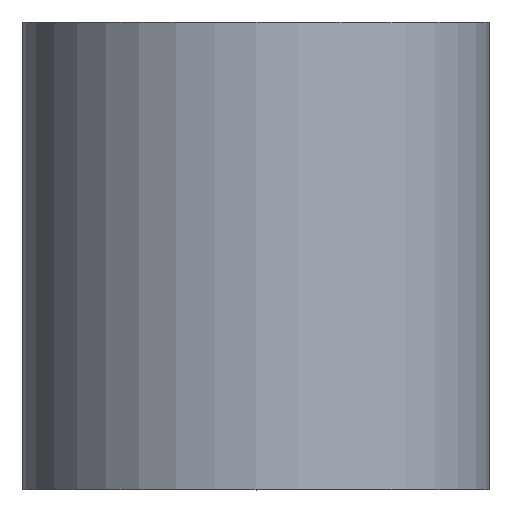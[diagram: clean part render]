
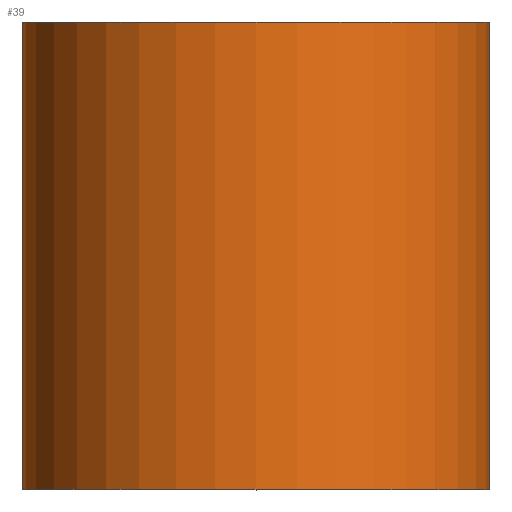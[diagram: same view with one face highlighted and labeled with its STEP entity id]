
A CAD part, top view. The second image highlights one B-rep face of the part: STEP entity #39.
In plain terms, the highlighted cylindrical face has radius 5 mm (diameter 10 mm), a partial arc.
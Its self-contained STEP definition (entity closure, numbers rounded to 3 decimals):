
#12 = EDGE_CURVE ( 'NONE', #195, #216, #118, .T. ) ;
#14 = DIRECTION ( 'NONE',  ( -1., 0., 0. ) ) ;
#20 = CIRCLE ( 'NONE', #33, 5. ) ;
#26 = EDGE_LOOP ( 'NONE', ( #241, #264, #65, #82 ) ) ;
#33 = AXIS2_PLACEMENT_3D ( 'NONE', #86, #230, #274 ) ;
#39 = ADVANCED_FACE ( 'NONE', ( #49 ), #191, .T. ) ;
#40 = CARTESIAN_POINT ( 'NONE',  ( -5., 0., 0. ) ) ;
#49 = FACE_OUTER_BOUND ( 'NONE', #26, .T. ) ;
#55 = DIRECTION ( 'NONE',  ( 0., 1., 0. ) ) ;
#65 = ORIENTED_EDGE ( 'NONE', *, *, #12, .F. ) ;
#72 = VECTOR ( 'NONE', #202, 1000. ) ;
#80 = EDGE_CURVE ( 'NONE', #201, #195, #243, .T. ) ;
#82 = ORIENTED_EDGE ( 'NONE', *, *, #80, .F. ) ;
#86 = CARTESIAN_POINT ( 'NONE',  ( 0., 0., 0. ) ) ;
#99 = CARTESIAN_POINT ( 'NONE',  ( 0., 10., 0. ) ) ;
#102 = DIRECTION ( 'NONE',  ( -1., 0., 0. ) ) ;
#104 = LINE ( 'NONE', #135, #228 ) ;
#117 = AXIS2_PLACEMENT_3D ( 'NONE', #289, #55, #102 ) ;
#118 = CIRCLE ( 'NONE', #151, 5. ) ;
#126 = DIRECTION ( 'NONE',  ( 0., 1., 0. ) ) ;
#135 = CARTESIAN_POINT ( 'NONE',  ( 5., 0., 0. ) ) ;
#151 = AXIS2_PLACEMENT_3D ( 'NONE', #99, #126, #14 ) ;
#155 = CARTESIAN_POINT ( 'NONE',  ( -5., 0., 0. ) ) ;
#157 = EDGE_CURVE ( 'NONE', #201, #197, #20, .T. ) ;
#160 = CARTESIAN_POINT ( 'NONE',  ( -5., 10., 0. ) ) ;
#185 = CARTESIAN_POINT ( 'NONE',  ( 5., 10., 0. ) ) ;
#191 = CYLINDRICAL_SURFACE ( 'NONE', #117, 5. ) ;
#195 = VERTEX_POINT ( 'NONE', #160 ) ;
#197 = VERTEX_POINT ( 'NONE', #273 ) ;
#201 = VERTEX_POINT ( 'NONE', #40 ) ;
#202 = DIRECTION ( 'NONE',  ( 0., 1., 0. ) ) ;
#216 = VERTEX_POINT ( 'NONE', #185 ) ;
#217 = DIRECTION ( 'NONE',  ( 0., 1., 0. ) ) ;
#224 = EDGE_CURVE ( 'NONE', #197, #216, #104, .T. ) ;
#228 = VECTOR ( 'NONE', #217, 1000. ) ;
#230 = DIRECTION ( 'NONE',  ( 0., 1., 0. ) ) ;
#241 = ORIENTED_EDGE ( 'NONE', *, *, #157, .T. ) ;
#243 = LINE ( 'NONE', #155, #72 ) ;
#264 = ORIENTED_EDGE ( 'NONE', *, *, #224, .T. ) ;
#273 = CARTESIAN_POINT ( 'NONE',  ( 5., 0., 0. ) ) ;
#274 = DIRECTION ( 'NONE',  ( -1., 0., 0. ) ) ;
#289 = CARTESIAN_POINT ( 'NONE',  ( 0., 0., 0. ) ) ;
